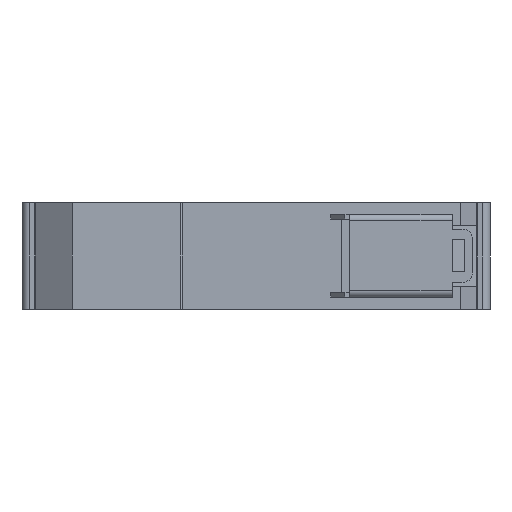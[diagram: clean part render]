
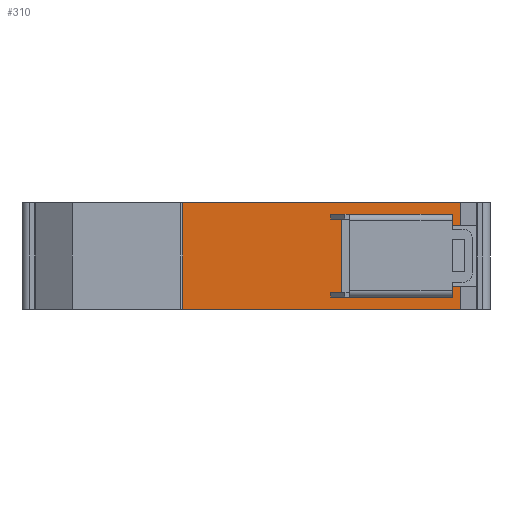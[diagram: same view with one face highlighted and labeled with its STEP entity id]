
A CAD part, front view. The second image highlights one B-rep face of the part: STEP entity #310.
In plain terms, the highlighted planar face has unit normal (0, -1, 0).
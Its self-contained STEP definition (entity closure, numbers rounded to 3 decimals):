
#32 = CARTESIAN_POINT ( 'NONE',  ( 17.5, 4., -11.3 ) ) ;
#64 = VECTOR ( 'NONE', #2029, 1000. ) ;
#145 = VERTEX_POINT ( 'NONE', #3211 ) ;
#157 = CARTESIAN_POINT ( 'NONE',  ( -41., 4., 6.4 ) ) ;
#201 = CARTESIAN_POINT ( 'NONE',  ( -43.2, 4., -6.4 ) ) ;
#229 = ORIENTED_EDGE ( 'NONE', *, *, #739, .T. ) ;
#307 = CARTESIAN_POINT ( 'NONE',  ( -43.2, 4., 7.75 ) ) ;
#310 = ADVANCED_FACE ( 'NONE', ( #1351 ), #2728, .T. ) ;
#386 = DIRECTION ( 'NONE',  ( 0., 0., 1. ) ) ;
#462 = VECTOR ( 'NONE', #2147, 1000. ) ;
#484 = ORIENTED_EDGE ( 'NONE', *, *, #1598, .T. ) ;
#535 = DIRECTION ( 'NONE',  ( 1., 0., 0. ) ) ;
#539 = LINE ( 'NONE', #3056, #781 ) ;
#555 = LINE ( 'NONE', #1409, #2044 ) ;
#581 = VECTOR ( 'NONE', #1025, 1000. ) ;
#585 = VERTEX_POINT ( 'NONE', #1125 ) ;
#617 = LINE ( 'NONE', #2198, #2567 ) ;
#644 = VECTOR ( 'NONE', #1914, 1000. ) ;
#697 = EDGE_CURVE ( 'NONE', #2504, #3139, #1382, .T. ) ;
#717 = CARTESIAN_POINT ( 'NONE',  ( -41., 4., 6.4 ) ) ;
#738 = CARTESIAN_POINT ( 'NONE',  ( -43.2, 4., 11.3 ) ) ;
#739 = EDGE_CURVE ( 'NONE', #1466, #145, #3019, .T. ) ;
#748 = ORIENTED_EDGE ( 'NONE', *, *, #2599, .F. ) ;
#766 = EDGE_CURVE ( 'NONE', #2858, #2871, #555, .T. ) ;
#781 = VECTOR ( 'NONE', #535, 1000. ) ;
#845 = CARTESIAN_POINT ( 'NONE',  ( 17.5, 4., 11.3 ) ) ;
#952 = VERTEX_POINT ( 'NONE', #3177 ) ;
#965 = DIRECTION ( 'NONE',  ( 0., 0., -1. ) ) ;
#1025 = DIRECTION ( 'NONE',  ( 0., 0., 1. ) ) ;
#1031 = ORIENTED_EDGE ( 'NONE', *, *, #3176, .F. ) ;
#1125 = CARTESIAN_POINT ( 'NONE',  ( -43.2, 4., 6.4 ) ) ;
#1132 = DIRECTION ( 'NONE',  ( -1., 0., 0. ) ) ;
#1178 = ORIENTED_EDGE ( 'NONE', *, *, #766, .T. ) ;
#1201 = ORIENTED_EDGE ( 'NONE', *, *, #1663, .F. ) ;
#1212 = LINE ( 'NONE', #1903, #462 ) ;
#1231 = VERTEX_POINT ( 'NONE', #845 ) ;
#1292 = CARTESIAN_POINT ( 'NONE',  ( -18., 4., 11.3 ) ) ;
#1321 = LINE ( 'NONE', #2541, #644 ) ;
#1348 = ORIENTED_EDGE ( 'NONE', *, *, #2972, .F. ) ;
#1351 = FACE_OUTER_BOUND ( 'NONE', #1671, .T. ) ;
#1382 = LINE ( 'NONE', #1657, #3132 ) ;
#1409 = CARTESIAN_POINT ( 'NONE',  ( -18., 4., -7.75 ) ) ;
#1466 = VERTEX_POINT ( 'NONE', #717 ) ;
#1485 = DIRECTION ( 'NONE',  ( 0., -1., 0. ) ) ;
#1492 = DIRECTION ( 'NONE',  ( 0., 0., -1. ) ) ;
#1503 = VERTEX_POINT ( 'NONE', #1774 ) ;
#1598 = EDGE_CURVE ( 'NONE', #1503, #1231, #2632, .T. ) ;
#1642 = DIRECTION ( 'NONE',  ( 0., 0., -1. ) ) ;
#1657 = CARTESIAN_POINT ( 'NONE',  ( -41., 4., -6.4 ) ) ;
#1663 = EDGE_CURVE ( 'NONE', #1466, #585, #1321, .T. ) ;
#1671 = EDGE_LOOP ( 'NONE', ( #484, #748, #1031, #1201, #229, #1712, #1348, #1178, #1901, #1736, #2121, #2630 ) ) ;
#1712 = ORIENTED_EDGE ( 'NONE', *, *, #1950, .F. ) ;
#1729 = LINE ( 'NONE', #307, #581 ) ;
#1735 = CARTESIAN_POINT ( 'NONE',  ( -18., 4., 7.75 ) ) ;
#1736 = ORIENTED_EDGE ( 'NONE', *, *, #697, .T. ) ;
#1774 = CARTESIAN_POINT ( 'NONE',  ( 17.5, 4., -11.3 ) ) ;
#1821 = VERTEX_POINT ( 'NONE', #2224 ) ;
#1901 = ORIENTED_EDGE ( 'NONE', *, *, #3095, .F. ) ;
#1903 = CARTESIAN_POINT ( 'NONE',  ( -18., 4., -11.3 ) ) ;
#1914 = DIRECTION ( 'NONE',  ( -1., 0., 0. ) ) ;
#1924 = DIRECTION ( 'NONE',  ( -1., 0., 0. ) ) ;
#1950 = EDGE_CURVE ( 'NONE', #952, #145, #2704, .T. ) ;
#2029 = DIRECTION ( 'NONE',  ( 0., 0., 1. ) ) ;
#2044 = VECTOR ( 'NONE', #1924, 1000. ) ;
#2112 = CARTESIAN_POINT ( 'NONE',  ( -41., 4., -7.75 ) ) ;
#2121 = ORIENTED_EDGE ( 'NONE', *, *, #2304, .T. ) ;
#2147 = DIRECTION ( 'NONE',  ( 0., 0., 1. ) ) ;
#2198 = CARTESIAN_POINT ( 'NONE',  ( -41., 4., -6.4 ) ) ;
#2224 = CARTESIAN_POINT ( 'NONE',  ( -43.2, 4., -11.3 ) ) ;
#2228 = CARTESIAN_POINT ( 'NONE',  ( -18., 4., -11.3 ) ) ;
#2254 = CARTESIAN_POINT ( 'NONE',  ( -41., 4., -6.4 ) ) ;
#2286 = DIRECTION ( 'NONE',  ( 1., 0., 0. ) ) ;
#2304 = EDGE_CURVE ( 'NONE', #3139, #1821, #2598, .T. ) ;
#2504 = VERTEX_POINT ( 'NONE', #2254 ) ;
#2530 = VECTOR ( 'NONE', #2286, 1000. ) ;
#2541 = CARTESIAN_POINT ( 'NONE',  ( -41., 4., 6.4 ) ) ;
#2543 = VECTOR ( 'NONE', #386, 1000. ) ;
#2549 = VERTEX_POINT ( 'NONE', #738 ) ;
#2567 = VECTOR ( 'NONE', #965, 1000. ) ;
#2573 = LINE ( 'NONE', #1292, #2530 ) ;
#2598 = LINE ( 'NONE', #3152, #2833 ) ;
#2599 = EDGE_CURVE ( 'NONE', #2549, #1231, #2573, .T. ) ;
#2612 = CARTESIAN_POINT ( 'NONE',  ( -18., 4., -7.75 ) ) ;
#2614 = AXIS2_PLACEMENT_3D ( 'NONE', #2228, #1485, #1492 ) ;
#2630 = ORIENTED_EDGE ( 'NONE', *, *, #3202, .T. ) ;
#2632 = LINE ( 'NONE', #32, #64 ) ;
#2704 = LINE ( 'NONE', #1735, #3061 ) ;
#2728 = PLANE ( 'NONE',  #2614 ) ;
#2803 = DIRECTION ( 'NONE',  ( -1., 0., 0. ) ) ;
#2833 = VECTOR ( 'NONE', #1642, 1000. ) ;
#2858 = VERTEX_POINT ( 'NONE', #2612 ) ;
#2871 = VERTEX_POINT ( 'NONE', #2112 ) ;
#2972 = EDGE_CURVE ( 'NONE', #2858, #952, #1212, .T. ) ;
#3019 = LINE ( 'NONE', #157, #2543 ) ;
#3056 = CARTESIAN_POINT ( 'NONE',  ( -18., 4., -11.3 ) ) ;
#3061 = VECTOR ( 'NONE', #2803, 1000. ) ;
#3095 = EDGE_CURVE ( 'NONE', #2504, #2871, #617, .T. ) ;
#3132 = VECTOR ( 'NONE', #1132, 1000. ) ;
#3139 = VERTEX_POINT ( 'NONE', #201 ) ;
#3152 = CARTESIAN_POINT ( 'NONE',  ( -43.2, 4., -7.75 ) ) ;
#3176 = EDGE_CURVE ( 'NONE', #585, #2549, #1729, .T. ) ;
#3177 = CARTESIAN_POINT ( 'NONE',  ( -18., 4., 7.75 ) ) ;
#3202 = EDGE_CURVE ( 'NONE', #1821, #1503, #539, .T. ) ;
#3211 = CARTESIAN_POINT ( 'NONE',  ( -41., 4., 7.75 ) ) ;
